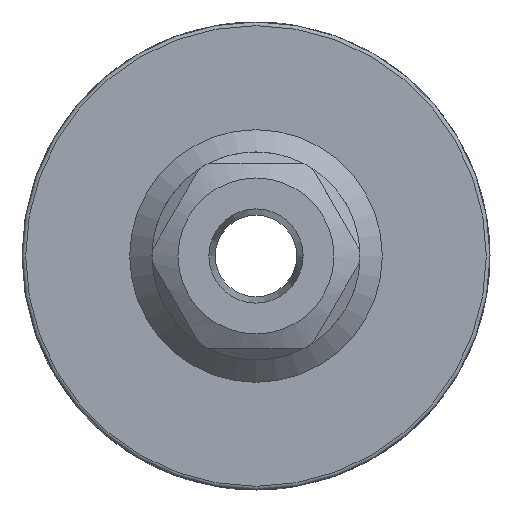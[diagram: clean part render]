
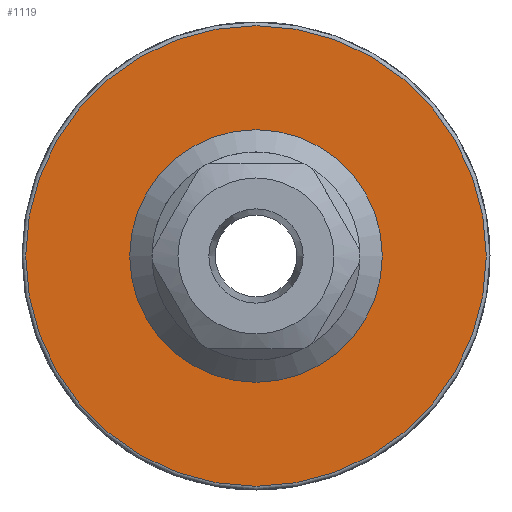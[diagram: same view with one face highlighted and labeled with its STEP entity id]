
A CAD part, front view. The second image highlights one B-rep face of the part: STEP entity #1119.
In plain terms, the highlighted planar face has unit normal (0, -1, 0).
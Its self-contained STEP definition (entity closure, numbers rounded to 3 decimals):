
#106=FACE_BOUND('',#225,.T.);
#119=PLANE('',#1264);
#154=FACE_OUTER_BOUND('',#224,.T.);
#224=EDGE_LOOP('',(#792));
#225=EDGE_LOOP('',(#793));
#427=CIRCLE('',#1258,17.);
#432=CIRCLE('',#1265,31.);
#498=VERTEX_POINT('',#1782);
#503=VERTEX_POINT('',#1796);
#610=EDGE_CURVE('',#498,#498,#427,.T.);
#617=EDGE_CURVE('',#503,#503,#432,.T.);
#792=ORIENTED_EDGE('',*,*,#617,.F.);
#793=ORIENTED_EDGE('',*,*,#610,.F.);
#1119=ADVANCED_FACE('',(#154,#106),#119,.T.);
#1258=AXIS2_PLACEMENT_3D('',#1783,#1423,#1424);
#1264=AXIS2_PLACEMENT_3D('',#1795,#1437,#1438);
#1265=AXIS2_PLACEMENT_3D('',#1797,#1439,#1440);
#1423=DIRECTION('center_axis',(0.,-1.,0.));
#1424=DIRECTION('ref_axis',(-1.,0.,0.));
#1437=DIRECTION('center_axis',(0.,-1.,0.));
#1438=DIRECTION('ref_axis',(0.,0.,-1.));
#1439=DIRECTION('center_axis',(0.,1.,0.));
#1440=DIRECTION('ref_axis',(-1.,0.,0.));
#1782=CARTESIAN_POINT('',(17.,60.1,0.));
#1783=CARTESIAN_POINT('Origin',(0.,60.1,0.));
#1795=CARTESIAN_POINT('Origin',(31.5,60.1,0.));
#1796=CARTESIAN_POINT('',(0.,60.1,-31.));
#1797=CARTESIAN_POINT('Origin',(0.,60.1,0.));
